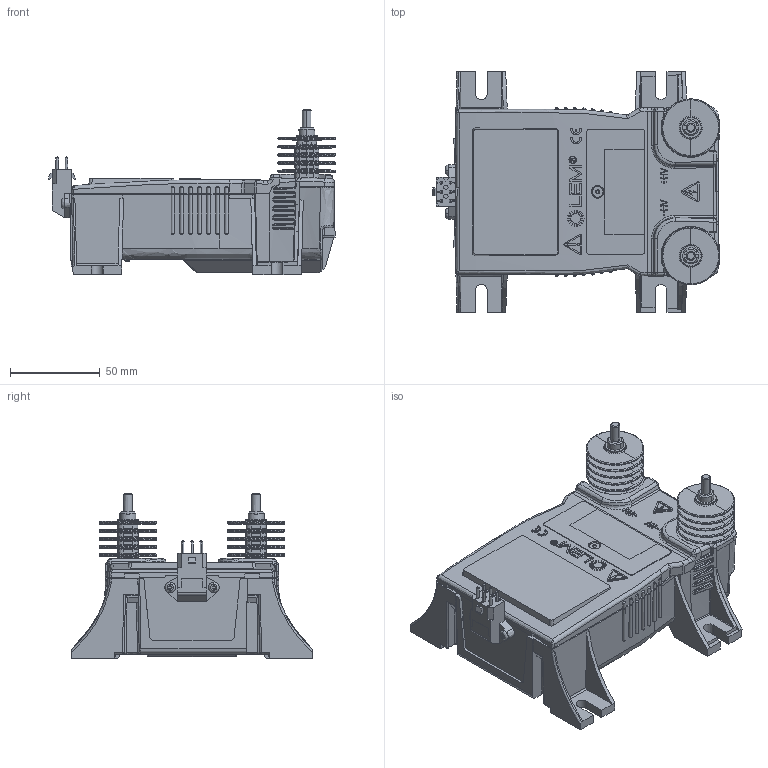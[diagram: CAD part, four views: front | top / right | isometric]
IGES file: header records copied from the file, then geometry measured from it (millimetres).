
Start section: Elysium IGES Interface
Global section: file name: C:\Users\scy\Desktop\TEMPO.igs; native system: CoCreate Modeling 17.0B  09-Oct-2010; preprocessor: CoCreate IGES_3D V2.2; author: SCy; organization: LEM S.A.; date: 20120206.105657; units: millimetre
Bounding box: 159.64 x 134 x 92 mm (x, y, z)
Volume: 659445.7 mm3; surface area: 86764.9 mm2
Topology: 1 solids, 3 shells, 2704 faces, 7168 edges, 4546 vertices
Faces by surface type: bspline 2704
